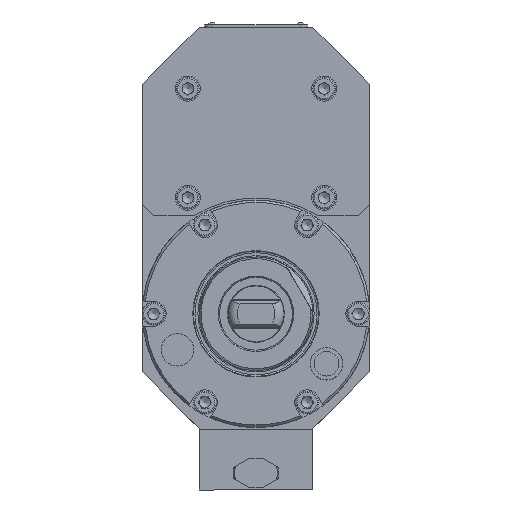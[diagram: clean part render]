
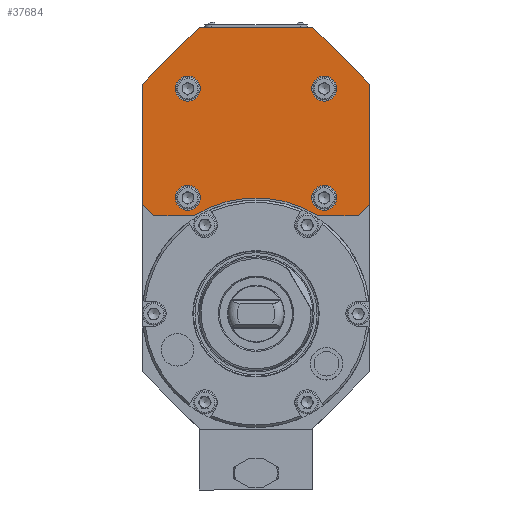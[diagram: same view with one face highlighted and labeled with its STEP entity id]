
A CAD part, left-side view. The second image highlights one B-rep face of the part: STEP entity #37684.
In plain terms, the highlighted planar face has unit normal (-1, 0, 0).
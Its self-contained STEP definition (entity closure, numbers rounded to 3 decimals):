
#13258=CIRCLE('',#36232,51.);
#13259=CIRCLE('',#36233,5.5);
#13260=CIRCLE('',#36234,5.5);
#13261=CIRCLE('',#36235,5.5);
#13262=CIRCLE('',#36236,5.5);
#13718=ORIENTED_EDGE('',*,*,#18066,.F.);
#13719=ORIENTED_EDGE('',*,*,#18077,.T.);
#13720=ORIENTED_EDGE('',*,*,#18037,.F.);
#13721=ORIENTED_EDGE('',*,*,#18078,.T.);
#13722=ORIENTED_EDGE('',*,*,#18079,.F.);
#13723=ORIENTED_EDGE('',*,*,#18080,.T.);
#13724=ORIENTED_EDGE('',*,*,#18081,.F.);
#13725=ORIENTED_EDGE('',*,*,#18082,.F.);
#13726=ORIENTED_EDGE('',*,*,#18083,.F.);
#13727=ORIENTED_EDGE('',*,*,#18075,.T.);
#13728=ORIENTED_EDGE('',*,*,#18084,.F.);
#13729=ORIENTED_EDGE('',*,*,#18085,.F.);
#13730=ORIENTED_EDGE('',*,*,#18086,.F.);
#13731=ORIENTED_EDGE('',*,*,#18087,.F.);
#15978=VECTOR('',#20935,1.);
#16002=VECTOR('',#20979,1.);
#16009=VECTOR('',#20994,1.);
#16011=VECTOR('',#20998,1.);
#16012=VECTOR('',#20999,1.);
#16013=VECTOR('',#21000,1.);
#16014=VECTOR('',#21001,1.);
#16015=VECTOR('',#21002,1.);
#16016=VECTOR('',#21005,1.);
#16586=LINE('',#23747,#15978);
#16610=LINE('',#23804,#16002);
#16617=LINE('',#23822,#16009);
#16619=LINE('',#23825,#16011);
#16620=LINE('',#23827,#16012);
#16621=LINE('',#23829,#16013);
#16622=LINE('',#23831,#16014);
#16623=LINE('',#23833,#16015);
#16624=LINE('',#23836,#16016);
#17194=VERTEX_POINT('',#23744);
#17195=VERTEX_POINT('',#23746);
#17217=VERTEX_POINT('',#23801);
#17218=VERTEX_POINT('',#23803);
#17225=VERTEX_POINT('',#23821);
#17226=VERTEX_POINT('',#23826);
#17227=VERTEX_POINT('',#23828);
#17228=VERTEX_POINT('',#23830);
#17229=VERTEX_POINT('',#23832);
#17230=VERTEX_POINT('',#23834);
#17231=VERTEX_POINT('',#23837);
#17232=VERTEX_POINT('',#23839);
#17233=VERTEX_POINT('',#23841);
#17234=VERTEX_POINT('',#23843);
#18037=EDGE_CURVE('',#17194,#17195,#16586,.T.);
#18066=EDGE_CURVE('',#17217,#17218,#16610,.T.);
#18075=EDGE_CURVE('',#17225,#17218,#16617,.T.);
#18077=EDGE_CURVE('',#17217,#17195,#16619,.T.);
#18078=EDGE_CURVE('',#17194,#17226,#16620,.T.);
#18079=EDGE_CURVE('',#17227,#17226,#16621,.T.);
#18080=EDGE_CURVE('',#17227,#17228,#16622,.T.);
#18081=EDGE_CURVE('',#17229,#17228,#16623,.T.);
#18082=EDGE_CURVE('',#17230,#17229,#13258,.T.);
#18083=EDGE_CURVE('',#17225,#17230,#16624,.T.);
#18084=EDGE_CURVE('',#17231,#17231,#13259,.T.);
#18085=EDGE_CURVE('',#17232,#17232,#13260,.T.);
#18086=EDGE_CURVE('',#17233,#17233,#13261,.T.);
#18087=EDGE_CURVE('',#17234,#17234,#13262,.T.);
#19198=EDGE_LOOP('',(#13718,#13719,#13720,#13721,#13722,#13723,#13724,#13725,
#13726,#13727));
#19199=EDGE_LOOP('',(#13728));
#19200=EDGE_LOOP('',(#13729));
#19201=EDGE_LOOP('',(#13730));
#19202=EDGE_LOOP('',(#13731));
#20062=FACE_BOUND('',#19198,.T.);
#20063=FACE_BOUND('',#19199,.T.);
#20064=FACE_BOUND('',#19200,.T.);
#20065=FACE_BOUND('',#19201,.T.);
#20066=FACE_BOUND('',#19202,.T.);
#20935=DIRECTION('',(0.,-50.,0.));
#20979=DIRECTION('',(0.,0.,-53.));
#20994=DIRECTION('',(0.,-5.,5.));
#20996=DIRECTION('',(-1.,0.,0.));
#20997=DIRECTION('',(0.,1.,0.));
#20998=DIRECTION('',(0.,25.,25.));
#20999=DIRECTION('',(0.,25.,-25.));
#21000=DIRECTION('',(0.,0.,53.));
#21001=DIRECTION('',(0.,-5.,-5.));
#21002=DIRECTION('',(0.,17.577,0.));
#21003=DIRECTION('',(-1.,0.,0.));
#21004=DIRECTION('',(0.,-27.423,43.));
#21005=DIRECTION('',(0.,17.577,0.));
#21006=DIRECTION('',(-1.,0.,0.));
#21007=DIRECTION('',(0.,-5.5,0.));
#21008=DIRECTION('',(-1.,0.,0.));
#21009=DIRECTION('',(0.,-5.5,0.));
#21010=DIRECTION('',(-1.,0.,0.));
#21011=DIRECTION('',(0.,-5.5,0.));
#21012=DIRECTION('',(-1.,0.,0.));
#21013=DIRECTION('',(0.,-5.5,0.));
#23744=CARTESIAN_POINT('',(0.5,25.,126.));
#23746=CARTESIAN_POINT('',(0.5,-25.,126.));
#23747=CARTESIAN_POINT('',(0.5,25.,126.));
#23801=CARTESIAN_POINT('',(0.5,-50.,101.));
#23803=CARTESIAN_POINT('',(0.5,-50.,48.));
#23804=CARTESIAN_POINT('',(0.5,-50.,101.));
#23821=CARTESIAN_POINT('',(0.5,-45.,43.));
#23822=CARTESIAN_POINT('',(0.5,-45.,43.));
#23824=CARTESIAN_POINT('',(0.5,-50.,43.));
#23825=CARTESIAN_POINT('',(0.5,-50.,101.));
#23826=CARTESIAN_POINT('',(0.5,50.,101.));
#23827=CARTESIAN_POINT('',(0.5,25.,126.));
#23828=CARTESIAN_POINT('',(0.5,50.,48.));
#23829=CARTESIAN_POINT('',(0.5,50.,48.));
#23830=CARTESIAN_POINT('',(0.5,45.,43.));
#23831=CARTESIAN_POINT('',(0.5,50.,48.));
#23832=CARTESIAN_POINT('',(0.5,27.423,43.));
#23833=CARTESIAN_POINT('',(0.5,27.423,43.));
#23834=CARTESIAN_POINT('',(0.5,-27.423,43.));
#23835=CARTESIAN_POINT('',(0.5,0.,0.));
#23836=CARTESIAN_POINT('',(0.5,-45.,43.));
#23837=CARTESIAN_POINT('',(0.5,-35.5,51.));
#23838=CARTESIAN_POINT('',(0.5,-30.,51.));
#23839=CARTESIAN_POINT('',(0.5,-35.5,99.));
#23840=CARTESIAN_POINT('',(0.5,-30.,99.));
#23841=CARTESIAN_POINT('',(0.5,24.5,51.));
#23842=CARTESIAN_POINT('',(0.5,30.,51.));
#23843=CARTESIAN_POINT('',(0.5,24.5,99.));
#23844=CARTESIAN_POINT('',(0.5,30.,99.));
#36231=AXIS2_PLACEMENT_3D('',#23824,#20996,#20997);
#36232=AXIS2_PLACEMENT_3D('',#23835,#21003,#21004);
#36233=AXIS2_PLACEMENT_3D('',#23838,#21006,#21007);
#36234=AXIS2_PLACEMENT_3D('',#23840,#21008,#21009);
#36235=AXIS2_PLACEMENT_3D('',#23842,#21010,#21011);
#36236=AXIS2_PLACEMENT_3D('',#23844,#21012,#21013);
#37323=PLANE('',#36231);
#37684=ADVANCED_FACE('',(#20062,#20063,#20064,#20065,#20066),#37323,.T.);
